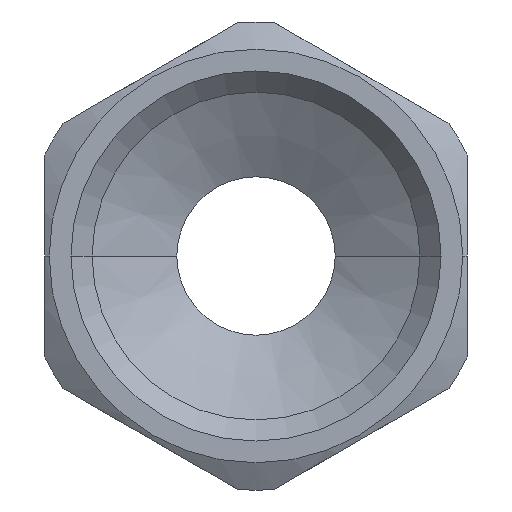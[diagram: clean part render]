
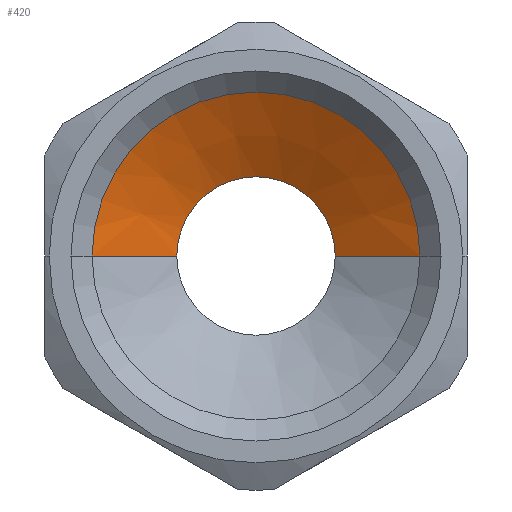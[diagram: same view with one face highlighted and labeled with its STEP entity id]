
A CAD part, front view. The second image highlights one B-rep face of the part: STEP entity #420.
In plain terms, the highlighted conical face has half-angle 60 degrees and reference radius 9.316 mm.
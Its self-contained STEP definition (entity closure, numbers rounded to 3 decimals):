
#10=CARTESIAN_POINT('',(106.267,-128.363,0.));
#20=DIRECTION('',(0.,-1.,0.));
#30=DIRECTION('',(-1.,0.,0.));
#40=AXIS2_PLACEMENT_3D('',#10,#20,#30);
#50=CONICAL_SURFACE('',#40,9.316,1.047);
#60=CARTESIAN_POINT('',(96.952,-128.363,0.));
#70=DIRECTION('',(-0.866,-0.5,0.));
#80=VECTOR('',#70,1.);
#90=LINE('',#60,#80);
#100=CARTESIAN_POINT('',(101.767,-125.583,0.));
#110=VERTEX_POINT('',#100);
#120=CARTESIAN_POINT('',(96.952,-128.363,0.));
#130=VERTEX_POINT('',#120);
#140=EDGE_CURVE('',#110,#130,#90,.T.);
#150=ORIENTED_EDGE('',*,*,#140,.F.);
#160=CARTESIAN_POINT('',(106.267,-128.363,0.));
#170=DIRECTION('',(0.,1.,0.));
#180=DIRECTION('',(1.,0.,0.));
#190=AXIS2_PLACEMENT_3D('',#160,#170,#180);
#200=CIRCLE('',#190,9.316);
#210=CARTESIAN_POINT('',(115.583,-128.363,
0.));
#220=VERTEX_POINT('',#210);
#230=EDGE_CURVE('',#130,#220,#200,.T.);
#240=ORIENTED_EDGE('',*,*,#230,.F.);
#250=CARTESIAN_POINT('',(115.583,-128.363,
0.));
#260=DIRECTION('',(0.866,-0.5,
0.));
#270=VECTOR('',#260,1.);
#280=LINE('',#250,#270);
#290=CARTESIAN_POINT('',(110.767,-125.583,
0.));
#300=VERTEX_POINT('',#290);
#310=EDGE_CURVE('',#300,#220,#280,.T.);
#320=ORIENTED_EDGE('',*,*,#310,.T.);
#330=CARTESIAN_POINT('',(106.267,-125.583,0.));
#340=DIRECTION('',(0.,-1.,0.));
#350=DIRECTION('',(-1.,0.,0.));
#360=AXIS2_PLACEMENT_3D('',#330,#340,#350);
#370=CIRCLE('',#360,4.5);
#380=EDGE_CURVE('',#300,#110,#370,.T.);
#390=ORIENTED_EDGE('',*,*,#380,.F.);
#400=EDGE_LOOP('',(#390,#320,#240,#150));
#410=FACE_OUTER_BOUND('',#400,.T.);
#420=ADVANCED_FACE('',(#410),#50,.F.);
